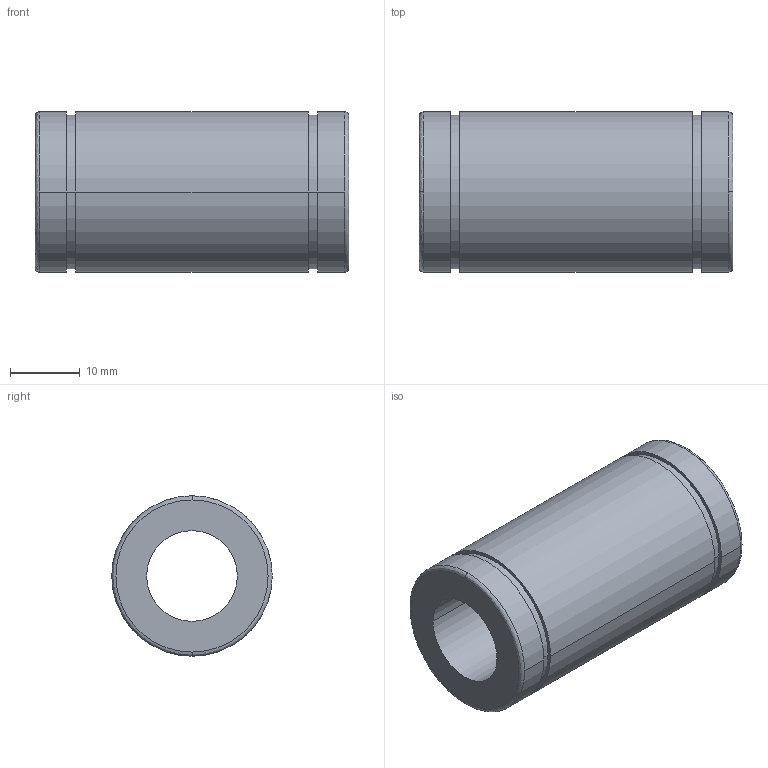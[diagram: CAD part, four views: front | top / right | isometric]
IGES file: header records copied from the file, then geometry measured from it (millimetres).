
Start section: 3D InterOp IGES (Version 21 0 1), Spatial Corp. Copyright (c) 1999-2007.
Global section: file name: N-13VM.igs; native system: Spatial Corp.; preprocessor: 3D InterOp GENERIC/IGES 3.0; author: Noname; organization: Noname; date: 20220516.092722; units: millimetre
Bounding box: 45 x 23 x 23 mm (x, y, z)
Surface area: 5750.2 mm2 (no closed solid volume)
Topology: 0 solids, 0 shells, 22 faces, 100 edges, 100 vertices
Faces by surface type: revolution 16, extrusion 6
